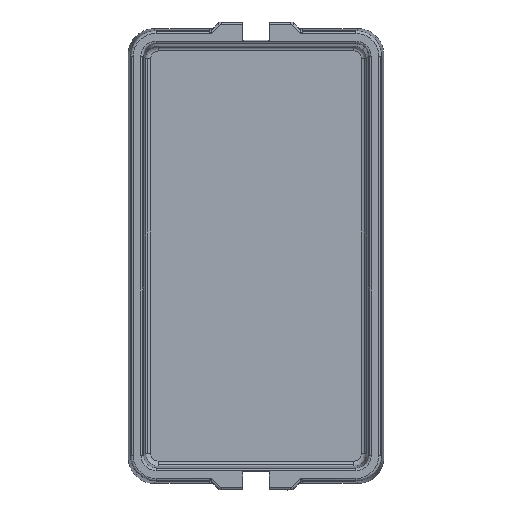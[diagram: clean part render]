
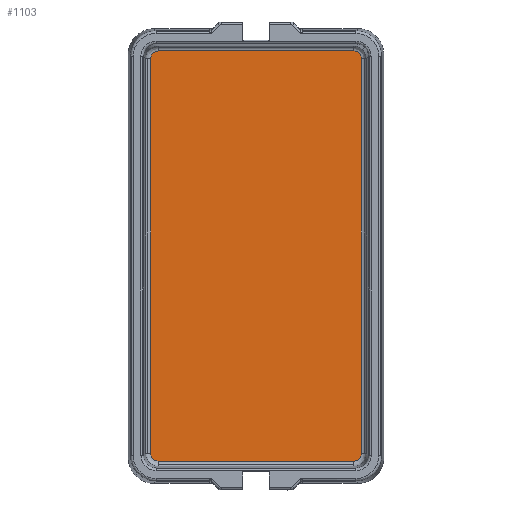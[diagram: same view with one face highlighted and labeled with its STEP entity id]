
A CAD part, top view. The second image highlights one B-rep face of the part: STEP entity #1103.
In plain terms, the highlighted planar face has unit normal (0, 0, 1).
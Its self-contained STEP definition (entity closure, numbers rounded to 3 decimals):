
#1103=ADVANCED_FACE('',(#2216),#2217,.T.);
#2216=FACE_OUTER_BOUND('',#7648,.T.);
#2217=PLANE('',#7649);
#7648=EDGE_LOOP('',(#10830,#10831,#10832,#10833,#10834,#10835,#10836,#10837));
#7649=AXIS2_PLACEMENT_3D('',#10838,#10839,#10840);
#10830=ORIENTED_EDGE('',*,*,#12206,.F.);
#10831=ORIENTED_EDGE('',*,*,#12210,.F.);
#10832=ORIENTED_EDGE('',*,*,#12229,.F.);
#10833=ORIENTED_EDGE('',*,*,#12233,.F.);
#10834=ORIENTED_EDGE('',*,*,#12219,.F.);
#10835=ORIENTED_EDGE('',*,*,#12225,.F.);
#10836=ORIENTED_EDGE('',*,*,#12213,.F.);
#10837=ORIENTED_EDGE('',*,*,#12216,.F.);
#10838=CARTESIAN_POINT('',(0.,229.0,2.5));
#10839=DIRECTION('',(0.,0.,1.0));
#10840=DIRECTION('',(1.0,0.0,0.));
#12206=EDGE_CURVE('',#14093,#14095,#14096,.T.);
#12210=EDGE_CURVE('',#14099,#14093,#14101,.T.);
#12213=EDGE_CURVE('',#14103,#14105,#14106,.T.);
#12216=EDGE_CURVE('',#14095,#14103,#14109,.T.);
#12219=EDGE_CURVE('',#14111,#14113,#14114,.T.);
#12225=EDGE_CURVE('',#14105,#14111,#14120,.T.);
#12229=EDGE_CURVE('',#14123,#14099,#14125,.T.);
#12233=EDGE_CURVE('',#14113,#14123,#14129,.T.);
#14093=VERTEX_POINT('',#16647);
#14095=VERTEX_POINT('',#16649);
#14096=ELLIPSE('',#16650,7.509,7.5);
#14099=VERTEX_POINT('',#16653);
#14101=LINE('',#16655,#16656);
#14103=VERTEX_POINT('',#16658);
#14105=VERTEX_POINT('',#16660);
#14106=ELLIPSE('',#16661,7.509,7.5);
#14109=LINE('',#16664,#16665);
#14111=VERTEX_POINT('',#16667);
#14113=VERTEX_POINT('',#16669);
#14114=ELLIPSE('',#16670,7.509,7.5);
#14120=LINE('',#16677,#16678);
#14123=VERTEX_POINT('',#16681);
#14125=ELLIPSE('',#16683,7.509,7.5);
#14129=LINE('',#16687,#16688);
#16647=CARTESIAN_POINT('',(-103.219,422.224,2.5));
#16649=CARTESIAN_POINT('',(-95.724,429.719,2.5));
#16650=AXIS2_PLACEMENT_3D('',#18599,#18600,#18601);
#16653=CARTESIAN_POINT('',(-103.219,35.776,2.5));
#16655=CARTESIAN_POINT('',(-103.219,332.865,2.5));
#16656=VECTOR('',#18608,10.0);
#16658=CARTESIAN_POINT('',(95.724,429.719,2.5));
#16660=CARTESIAN_POINT('',(103.219,422.224,2.5));
#16661=AXIS2_PLACEMENT_3D('',#18612,#18613,#18614);
#16664=CARTESIAN_POINT('',(55.115,429.719,2.5));
#16665=VECTOR('',#18618,10.0);
#16667=CARTESIAN_POINT('',(103.219,35.776,2.5));
#16669=CARTESIAN_POINT('',(95.724,28.281,2.5));
#16670=AXIS2_PLACEMENT_3D('',#18622,#18623,#18624);
#16677=CARTESIAN_POINT('',(103.219,125.135,2.5));
#16678=VECTOR('',#18632,10.0);
#16681=CARTESIAN_POINT('',(-95.724,28.281,2.5));
#16683=AXIS2_PLACEMENT_3D('',#18636,#18637,#18638);
#16687=CARTESIAN_POINT('',(-55.115,28.281,2.5));
#16688=VECTOR('',#18642,10.0);
#18599=CARTESIAN_POINT('',(-95.715,422.215,2.5));
#18600=DIRECTION('',(0.,0.,-1.0));
#18601=DIRECTION('',(-0.707,0.707,0.));
#18608=DIRECTION('',(0.,1.0,0.));
#18612=CARTESIAN_POINT('',(95.715,422.215,2.5));
#18613=DIRECTION('',(0.,0.,-1.0));
#18614=DIRECTION('',(0.707,0.707,0.));
#18618=DIRECTION('',(1.0,0.,0.));
#18622=CARTESIAN_POINT('',(95.715,35.785,2.5));
#18623=DIRECTION('',(0.,0.,-1.0));
#18624=DIRECTION('',(0.707,-0.707,0.));
#18632=DIRECTION('',(0.,-1.0,0.));
#18636=CARTESIAN_POINT('',(-95.715,35.785,2.5));
#18637=DIRECTION('',(0.,0.,-1.0));
#18638=DIRECTION('',(-0.707,-0.707,0.));
#18642=DIRECTION('',(-1.0,0.,0.));
